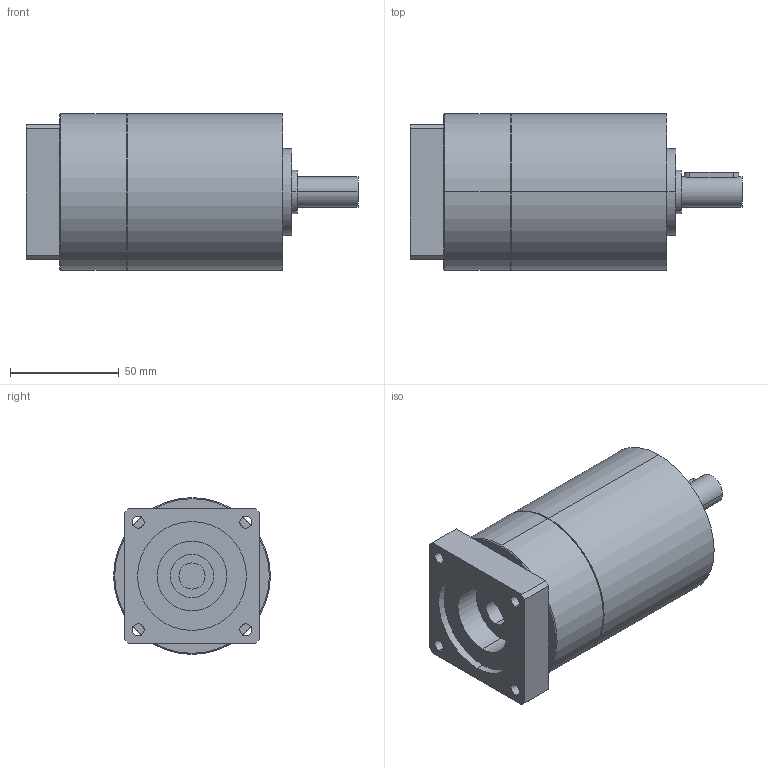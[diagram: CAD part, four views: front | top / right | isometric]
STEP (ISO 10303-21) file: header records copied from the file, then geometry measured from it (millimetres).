
FILE_DESCRIPTION(('CoCreate Modeling STEP Export'),'2;1');
FILE_NAME('GPT75_ig-9-12-16-20-25-28-35-40-50-70-100_14_B14T_12_P23.stp','2014-08-27T13:16:32',(''),(''),'CoCreate Modeling STEP processor for AP214 (Solid Model)','CoCreate Modeling 16.00C 25-Feb-2009 (C) Parametric Technology GmbH','');
FILE_SCHEMA(('AUTOMOTIVE_DESIGN { 1 0 10303 214 1 1 1 1 }'));
Length unit declared in the file: millimetre
Products named in the file (2): GPT75_ig-9-12-16-20-25-28-35-40-50-70-100_14_B14T_12_P23
Assembly tree (1 placements, depth 2):
  GPT75_ig-9-12-16-20-25-28-35-40-50-70-100_14_B14T_12_P23
    GPT75_ig-9-12-16-20-25-28-35-40-50-70-100_14_B14T_12_P23
Bounding box: 152.5 x 72 x 72 mm (x, y, z)
Volume: 465584.3 mm3; surface area: 42808 mm2
Topology: 1 solids, 1 shells, 80 faces, 198 edges, 129 vertices
Faces by surface type: cylinder 42, plane 34, cone 4
Entity records: 2353 total; most frequent: CARTESIAN_POINT 689, ORIENTED_EDGE 396, DIRECTION 276, EDGE_CURVE 198, VERTEX_POINT 129, AXIS2_PLACEMENT_3D 104, EDGE_LOOP 97, FACE_OUTER_BOUND 80
